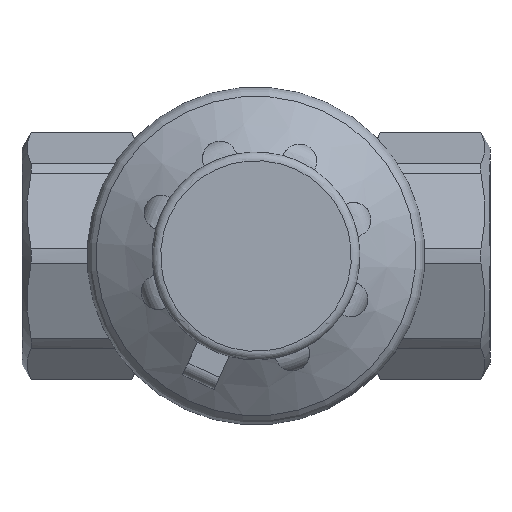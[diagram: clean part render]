
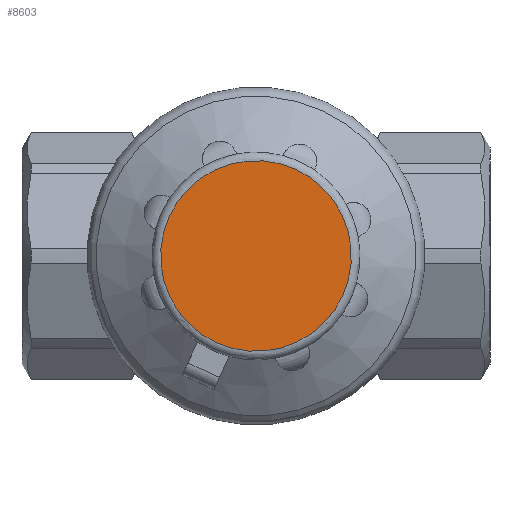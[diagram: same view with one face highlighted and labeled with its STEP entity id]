
A CAD part, front view. The second image highlights one B-rep face of the part: STEP entity #8603.
In plain terms, the highlighted planar face has unit normal (0, -1, 0).
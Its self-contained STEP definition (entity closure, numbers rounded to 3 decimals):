
#274=PLANE('',#9270);
#559=CIRCLE('',#9271,11.);
#560=CIRCLE('',#9272,11.);
#1047=FACE_OUTER_BOUND('',#1593,.T.);
#1593=EDGE_LOOP('',(#6079,#6080));
#3463=VERTEX_POINT('',#23084);
#3464=VERTEX_POINT('',#23085);
#4453=EDGE_CURVE('',#3463,#3464,#559,.T.);
#4454=EDGE_CURVE('',#3464,#3463,#560,.T.);
#6079=ORIENTED_EDGE('',*,*,#4453,.F.);
#6080=ORIENTED_EDGE('',*,*,#4454,.F.);
#8603=ADVANCED_FACE('',(#1047),#274,.T.);
#9270=AXIS2_PLACEMENT_3D('',#23083,#10497,#10498);
#9271=AXIS2_PLACEMENT_3D('',#23086,#10499,#10500);
#9272=AXIS2_PLACEMENT_3D('',#23087,#10501,#10502);
#10497=DIRECTION('center_axis',(0.,-1.,0.));
#10498=DIRECTION('ref_axis',(0.909,0.,-0.417));
#10499=DIRECTION('center_axis',(0.,1.,0.));
#10500=DIRECTION('ref_axis',(0.417,0.,0.909));
#10501=DIRECTION('center_axis',(0.,1.,0.));
#10502=DIRECTION('ref_axis',(0.417,0.,0.909));
#23083=CARTESIAN_POINT('Origin',(-9.999,-35.,4.585));
#23084=CARTESIAN_POINT('',(-9.999,-35.,4.585));
#23085=CARTESIAN_POINT('',(9.999,-35.,-4.585));
#23086=CARTESIAN_POINT('Origin',(0.,-35.,
0.));
#23087=CARTESIAN_POINT('Origin',(0.,-35.,
0.));
